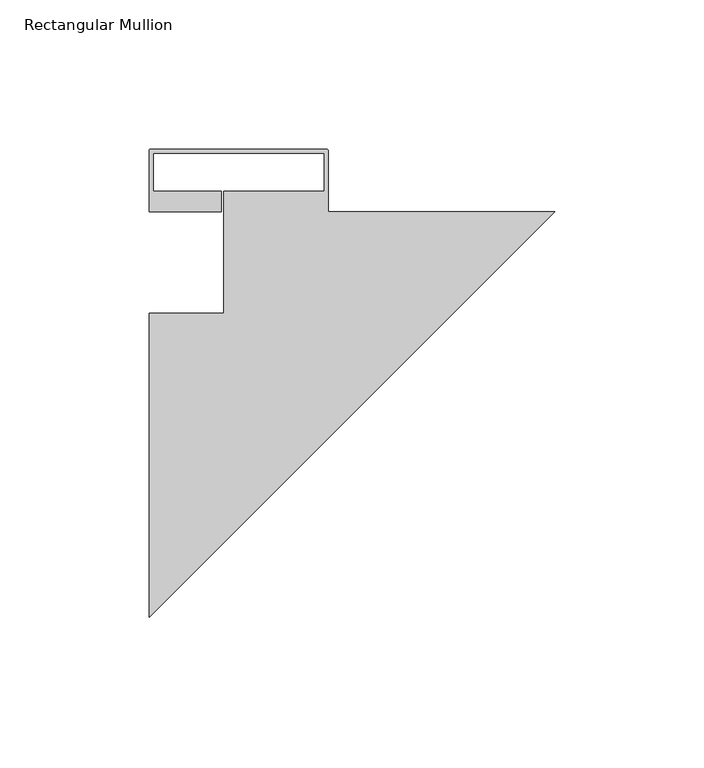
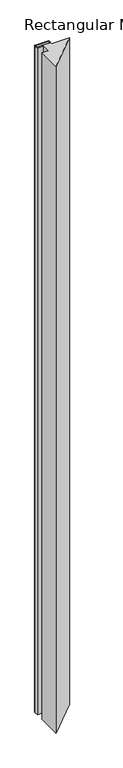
"""IFC4 building model written with IfcOpenShell, lengths in millimetres: member geometry, Rectangular Mullion : FMO053...FM60-17_L."""

import ifcopenshell
import ifcopenshell.guid

model = None  # the IFC model being written
_history = None  # IfcOwnerHistory: only IFC2X3 demands one
_inside = {}  # id of a spatial element -> (the spatial element, [elements in it])
_under = {}  # id of a project, library or spatial element -> (it, [spatial elements below it])
_declared = {}  # id of a project -> (the project, [libraries it declares])
_typed = {}  # id of a type object -> (the type object, [elements of that type])
_made_of = {}  # id of a material, layer set ... -> (it, [elements and type objects made of it])


def new_model(schema):
    """Start an empty IFC model of exactly this schema.

    Asked for "IFC4X3", IfcOpenShell would pick the latest addendum, in which some entities
    have other attributes; the version numbers below select the first issue.
    IFC2X3 requires an IfcOwnerHistory on every rooted entity: one is made here for all.
    """
    global model, _history
    if schema == "IFC4X3":
        model = ifcopenshell.file(schema_version=(4, 3, 0, 0))
    else:
        model = ifcopenshell.file(schema=schema)
    _inside.clear()
    _under.clear()
    _declared.clear()
    _typed.clear()
    _made_of.clear()
    _history = None
    if model.schema == "IFC2X3":
        org = make("IfcOrganization", Name="unknown")
        user = make(
            "IfcPersonAndOrganization",
            ThePerson=make("IfcPerson", FamilyName="unknown"),
            TheOrganization=org,
        )
        app = make(
            "IfcApplication",
            ApplicationDeveloper=org,
            Version="unknown",
            ApplicationFullName="unknown",
            ApplicationIdentifier="unknown",
        )
        _history = make(
            "IfcOwnerHistory",
            OwningUser=user,
            OwningApplication=app,
            ChangeAction="ADDED",
            CreationDate=0,
        )
    return model


def make(cls, **values):
    """One entity of the class cls with the attributes given. An attribute that is None is left unset."""
    return model.create_entity(
        cls, **{name: value for name, value in values.items() if value is not None}
    )


def rooted(cls, **values):
    """An entity with a GlobalId (a new one), such as an element, a storey or a relation."""
    return make(cls, GlobalId=ifcopenshell.guid.new(), OwnerHistory=_history, **values)


def si_unit(unit_type, name, prefix=None):
    """IfcSIUnit, for example si_unit("LENGTHUNIT", "METRE", prefix="MILLI")."""
    return make("IfcSIUnit", UnitType=unit_type, Prefix=prefix, Name=name)


def assignment(units):
    """IfcUnitAssignment: the units of a project."""
    return None if units is None else make("IfcUnitAssignment", Units=units)


def point(xyz):
    """IfcCartesianPoint."""
    return None if xyz is None else make("IfcCartesianPoint", Coordinates=xyz)


def direction(xyz):
    """IfcDirection."""
    return None if xyz is None else make("IfcDirection", DirectionRatios=xyz)


def frame(location, z_axis=None, x_axis=None):
    """IfcAxis2Placement3D, a coordinate frame: its origin and axes. An axis left out is left unset."""
    return make(
        "IfcAxis2Placement3D",
        Location=point(location),
        Axis=direction(z_axis),
        RefDirection=direction(x_axis),
    )


def frame_2d(location, x_axis=None):
    """IfcAxis2Placement2D, a coordinate frame in the plane: its origin and x axis."""
    return make(
        "IfcAxis2Placement2D", Location=point(location), RefDirection=direction(x_axis)
    )


def origin():
    """The frame at (0, 0, 0) with its axes left unset."""
    return frame((0.0, 0.0, 0.0))


def place(relative_to, where):
    """IfcLocalPlacement: puts the frame where relative to a parent placement (None: the world)."""
    return make(
        "IfcLocalPlacement", PlacementRelTo=relative_to, RelativePlacement=where
    )


def context(
    kind, dimensions, precision=None, world=None, true_north=None, identifier=None
):
    """IfcGeometricRepresentationContext, for example the 3D "Model" context."""
    return make(
        "IfcGeometricRepresentationContext",
        ContextIdentifier=identifier,
        ContextType=kind,
        CoordinateSpaceDimension=dimensions,
        Precision=precision,
        WorldCoordinateSystem=world,
        TrueNorth=true_north,
    )


def project(units=None, contexts=None):
    """IfcProject with its units and contexts."""
    return rooted(
        "IfcProject",
        Name="project",
        RepresentationContexts=contexts,
        UnitsInContext=assignment(units),
    )


def spatial(cls, under=None, at=None, **own):
    """A site, building, storey or space (cls), placed at a placement, below another one or the project."""
    s = rooted(cls, ObjectPlacement=at, **own)
    if under is not None:
        _under.setdefault(under.id(), (under, []))[1].append(s)
    return s


def polyline(points):
    """IfcPolyline through the points."""
    return make("IfcPolyline", Points=[point(p) for p in points])


def circle_curve(where, radius):
    """IfcCircle in the frame where."""
    return make("IfcCircle", Position=where, Radius=radius)


def trimmed(basis, trim1, trim2, sense, master):
    """IfcTrimmedCurve: the piece of a basis curve between two trims."""
    return make(
        "IfcTrimmedCurve",
        BasisCurve=basis,
        Trim1=trim1,
        Trim2=trim2,
        SenseAgreement=sense,
        MasterRepresentation=master,
    )


def segment(curve, same_sense, transition):
    """IfcCompositeCurveSegment."""
    return make(
        "IfcCompositeCurveSegment",
        Transition=transition,
        SameSense=same_sense,
        ParentCurve=curve,
    )


def composite_curve(segments, self_intersect=None):
    """IfcCompositeCurve: segments joined end to end."""
    return make("IfcCompositeCurve", Segments=segments, SelfIntersect=self_intersect)


def outline(outer, holes=None, kind="AREA"):
    """IfcArbitraryClosedProfileDef: a profile drawn as a closed curve; with holes, ...WithVoids."""
    if holes is None:
        return make("IfcArbitraryClosedProfileDef", ProfileType=kind, OuterCurve=outer)
    return make(
        "IfcArbitraryProfileDefWithVoids",
        ProfileType=kind,
        OuterCurve=outer,
        InnerCurves=holes,
    )


def extrude(swept, where, along, depth):
    """IfcExtrudedAreaSolid: the profile swept, set in the frame where, extruded along a direction by depth."""
    return make(
        "IfcExtrudedAreaSolid",
        SweptArea=swept,
        Position=where,
        ExtrudedDirection=direction(along),
        Depth=depth,
    )


def shape(context_of_items, identifier, shape_type, items):
    """IfcShapeRepresentation: the items that make up one representation, for example the "Body"."""
    return make(
        "IfcShapeRepresentation",
        ContextOfItems=context_of_items,
        RepresentationIdentifier=identifier,
        RepresentationType=shape_type,
        Items=items,
    )


def source(mapping_origin, context_of_items, identifier, shape_type, items):
    """IfcRepresentationMap: a shape defined once, which mapped items show again and again."""
    return make(
        "IfcRepresentationMap",
        MappingOrigin=mapping_origin,
        MappedRepresentation=shape(context_of_items, identifier, shape_type, items),
    )


def transform(
    local_origin,
    x_axis=None,
    y_axis=None,
    z_axis=None,
    scale=None,
    scale2=None,
    scale3=None,
    uniform=True,
):
    """IfcCartesianTransformationOperator3D, or its non-uniform kind. x_axis, y_axis, z_axis: its Axis1, 2, 3."""
    if uniform:
        return make(
            "IfcCartesianTransformationOperator3D",
            Axis1=direction(x_axis),
            Axis2=direction(y_axis),
            LocalOrigin=point(local_origin),
            Scale=scale,
            Axis3=direction(z_axis),
        )
    return make(
        "IfcCartesianTransformationOperator3DnonUniform",
        Axis1=direction(x_axis),
        Axis2=direction(y_axis),
        LocalOrigin=point(local_origin),
        Scale=scale,
        Axis3=direction(z_axis),
        Scale2=scale2,
        Scale3=scale3,
    )


def mapped(mapping_source, mapping_target):
    """IfcMappedItem: shows the shape of a source again, moved by a transform."""
    return make(
        "IfcMappedItem", MappingSource=mapping_source, MappingTarget=mapping_target
    )


def made_of(thing, what):
    """Note that an element or type object is made of a material, layer set ...; save() writes the relation."""
    if what is not None:
        _made_of.setdefault(what.id(), (what, []))[1].append(thing)
    return thing


def element(
    cls,
    number,
    at=None,
    inside=None,
    cuts=None,
    type_object=None,
    material=None,
    context=None,
    identifier="Body",
    shape_type=None,
    held_by="IfcProductDefinitionShape",
    body=None,
    shapes=None,
    **own,
):
    """One element of the class cls, such as IfcWall. Its Tag is "e" and its number.

    at: its placement. inside: the storey or other place that contains it. cuts: it is an
    opening in that element (IfcRelVoidsElement). A single representation is given by context,
    identifier, shape_type and body (its items); several are given by shapes. held_by: the class
    of the entity that holds the representations. save() writes the other relations.
    """
    e = rooted(cls, Tag="e%d" % number, ObjectPlacement=at, **own)
    if body is not None:
        shapes = [shape(context, identifier, shape_type, body)]
    if shapes is not None:
        e.Representation = make(held_by, Representations=shapes)
    if inside is not None:
        _inside.setdefault(inside.id(), (inside, []))[1].append(e)
    if cuts is not None:
        rooted(
            "IfcRelVoidsElement", RelatingBuildingElement=cuts, RelatedOpeningElement=e
        )
    if type_object is not None:
        _typed.setdefault(type_object.id(), (type_object, []))[1].append(e)
    return made_of(e, material)


def aggregate(whole, parts):
    """IfcRelAggregates: a whole, such as a stair, and the parts it consists of."""
    return rooted("IfcRelAggregates", RelatingObject=whole, RelatedObjects=parts)


def save(model, path):
    """Write the relations noted so far, then the file.

    IfcRelAggregates (storeys below a building ...), IfcRelContainedInSpatialStructure (elements
    in a storey), IfcRelDefinesByType, IfcRelAssociatesMaterial and IfcRelDeclares: one each for
    every whole, place, type object, material and project.
    """
    for whole, parts in _under.values():
        aggregate(whole, parts)
    for where, things in _inside.values():
        rooted(
            "IfcRelContainedInSpatialStructure",
            RelatedElements=things,
            RelatingStructure=where,
        )
    for kind, things in _typed.values():
        rooted("IfcRelDefinesByType", RelatedObjects=things, RelatingType=kind)
    for what, things in _made_of.values():
        rooted("IfcRelAssociatesMaterial", RelatedObjects=things, RelatingMaterial=what)
    for by, libraries in _declared.values():
        rooted("IfcRelDeclares", RelatingContext=by, RelatedDefinitions=libraries)
    model.write(path)


def rectangular_mullion_e379f3d9(model_context):
    return source(origin(), model_context, "Body", "SweptSolid", [
        extrude(outline(composite_curve([segment(polyline([(-134.6454068, 53.7025783), (-134.6454068, 40.9476589), (-111.7712064, 40.9476589), (-111.7712064, 34.0), (-135.9454068, 34.0), (-135.9454068, 54.5025783)]), True, "CONTINUOUS"), segment(trimmed(circle_curve(frame_2d((-135.4133179, 54.5025783)), 0.5320889), [point((-135.9454068, 54.5025783))], [point((-135.2313328, 55.0025783))], False, "CARTESIAN"), True, "CONTINUOUS"), segment(polyline([(-135.2313328, 55.0025783), (-76.6089292, 55.0025783)]), True, "CONTINUOUS"), segment(trimmed(circle_curve(frame_2d((-76.4655565, 54.5025783)), 0.5201497), [point((-76.6089292, 55.0025783))], [point((-75.9454068, 54.5025783))], False, "CARTESIAN"), True, "CONTINUOUS"), segment(polyline([(-75.9454068, 54.5025783), (-75.9454068, 33.9743874), (0.0, 33.9743874), (-135.9712064, -101.996819), (-135.9712064, 0.0), (-110.9712064, 0.0), (-110.9712064, 40.9476589), (-77.2454068, 40.9476589), (-77.2454068, 53.7025783), (-134.6454068, 53.7025783)]), True, "CONTINUOUS")], self_intersect=False)), frame((0.0, 0.0, -3000.0), z_axis=(0.0, 0.0, 1.0), x_axis=(1.0, 0.0, 0.0)), (0.0, 0.0, 1.0), 3000.0),
    ])


if __name__ == "__main__":
    model = new_model("IFC4")
    model_context = context("Model", 3, world=origin())
    ifc_project = project(units=[si_unit("LENGTHUNIT", "METRE", prefix="MILLI")], contexts=[model_context])
    site = spatial("IfcSite", under=ifc_project)
    building = spatial("IfcBuilding", under=site)
    placement = place(None, origin())
    rectangular_mullion_shape = rectangular_mullion_e379f3d9(model_context)
    element("IfcMember", 1, ObjectType="Rectangular Mullion : FMO053...FM60-17_L", at=placement, inside=building, context=model_context, shape_type="MappedRepresentation", body=[
        mapped(rectangular_mullion_shape, transform((0.0, 0.0, 0.0), x_axis=(1.0, 0.0, 0.0), y_axis=(0.0, 1.0, 0.0), z_axis=(0.0, 0.0, 1.0))),
    ])
    save(model, "model.ifc")
